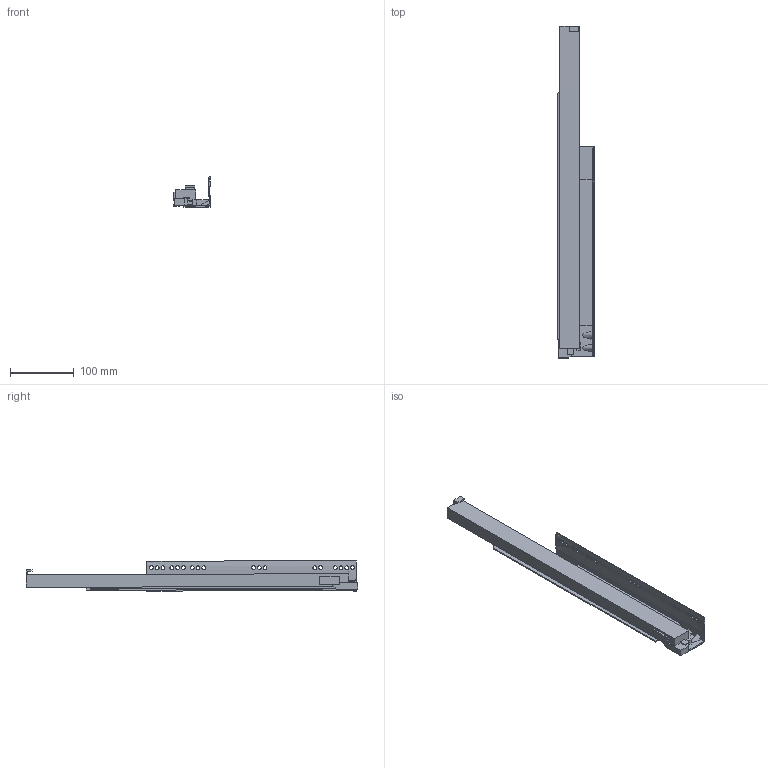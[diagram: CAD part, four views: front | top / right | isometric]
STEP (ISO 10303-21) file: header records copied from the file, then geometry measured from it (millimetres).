
FILE_DESCRIPTION (( 'STEP AP214' ), '1' );
FILE_NAME ('_IMOS_Dynapro_Softclose_D514_NL_520_RE.step', '2010-07-16T06:03:40', ( 'grass' ), ( '' ), 'SwSTEP 2.0', 'SolidWorks 2009', '' );
FILE_SCHEMA (( 'AUTOMOTIVE_DESIGN' ));
Length unit declared in the file: millimetre
Products named in the file (1): _IMOS_Dynapro_Softclose_D514_NL_520_RE
Bounding box: 57.08 x 520.07 x 47.86 mm (x, y, z)
Volume: 436104.2 mm3; surface area: 137118.9 mm2
Topology: 1 solids, 1 shells, 120 faces, 409 edges, 287 vertices
Faces by surface type: plane 77, cylinder 36, bspline 7
Entity records: 5269 total; most frequent: CARTESIAN_POINT 1531, ORIENTED_EDGE 810, DIRECTION 723, EDGE_CURVE 405, VECTOR 309, LINE 309, VERTEX_POINT 287, AXIS2_PLACEMENT_3D 207
